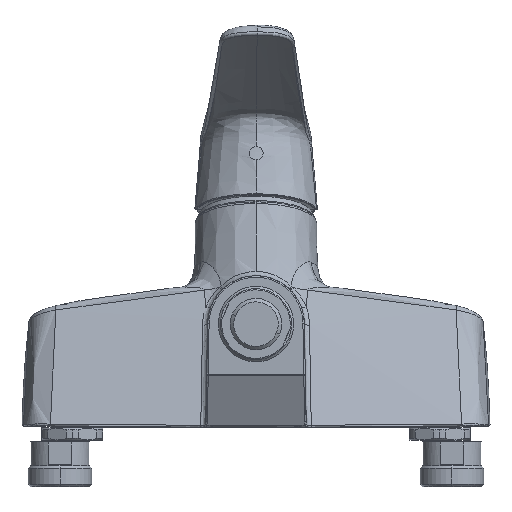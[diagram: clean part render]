
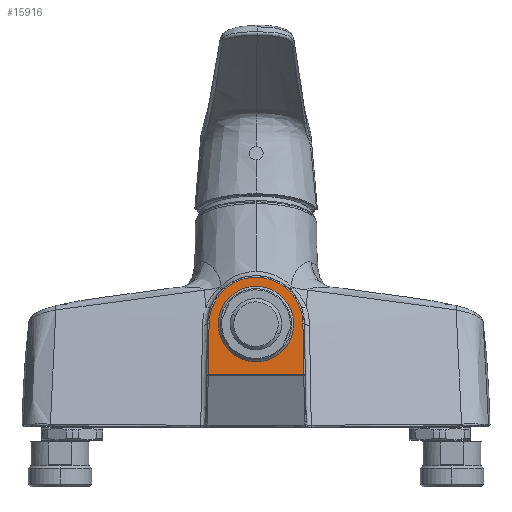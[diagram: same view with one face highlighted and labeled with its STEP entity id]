
A CAD part, front view. The second image highlights one B-rep face of the part: STEP entity #15916.
In plain terms, the highlighted planar face has unit normal (0, -1, 0).
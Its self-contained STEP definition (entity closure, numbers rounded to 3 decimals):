
#369 = EDGE_CURVE ( 'NONE', #5555, #22650, #10756, .T. ) ;
#605 = ORIENTED_EDGE ( 'NONE', *, *, #7487, .F. ) ;
#1111 = DIRECTION ( 'NONE',  ( -0.017, 0., -1. ) ) ;
#1583 = ORIENTED_EDGE ( 'NONE', *, *, #369, .T. ) ;
#1711 = VERTEX_POINT ( 'NONE', #26308 ) ;
#1851 = CARTESIAN_POINT ( 'NONE',  ( 615.462, 772.758, 1253.964 ) ) ;
#2289 = DIRECTION ( 'NONE',  ( 0., -1., 0. ) ) ;
#5232 = CARTESIAN_POINT ( 'NONE',  ( 615.827, 772.758, 1233.032 ) ) ;
#5485 = CARTESIAN_POINT ( 'NONE',  ( 615.827, 772.758, 1233.032 ) ) ;
#5555 = VERTEX_POINT ( 'NONE', #15493 ) ;
#6047 = VERTEX_POINT ( 'NONE', #24925 ) ;
#6669 = VERTEX_POINT ( 'NONE', #18106 ) ;
#7302 =( BOUNDED_CURVE ( )  B_SPLINE_CURVE ( 3, ( #24391, #13187, #26560, #13275 ),
 .UNSPECIFIED., .F., .F. ) 
 B_SPLINE_CURVE_WITH_KNOTS ( ( 4, 4 ),
 ( 0., 1. ),
 .UNSPECIFIED. ) 
 CURVE ( )  GEOMETRIC_REPRESENTATION_ITEM ( )  RATIONAL_B_SPLINE_CURVE ( ( 1., 0.345, 0.345, 1. ) ) 
 REPRESENTATION_ITEM ( '' )  );
#7356 = CIRCLE ( 'NONE', #21927, 13.221 ) ;
#7487 = EDGE_CURVE ( 'NONE', #5555, #1711, #29113, .T. ) ;
#7773 = CARTESIAN_POINT ( 'NONE',  ( 576.802, 772.758, 1233.032 ) ) ;
#8442 = EDGE_LOOP ( 'NONE', ( #14776, #12553 ) ) ;
#9759 = DIRECTION ( 'NONE',  ( 0., -1., 0. ) ) ;
#10601 = AXIS2_PLACEMENT_3D ( 'NONE', #26928, #2289, #18181 ) ;
#10756 = LINE ( 'NONE', #5232, #10925 ) ;
#10925 = VECTOR ( 'NONE', #25394, 1000. ) ;
#12553 = ORIENTED_EDGE ( 'NONE', *, *, #18729, .F. ) ;
#13187 = CARTESIAN_POINT ( 'NONE',  ( 577.813, 772.758, 1290.961 ) ) ;
#13275 = CARTESIAN_POINT ( 'NONE',  ( 615.462, 772.758, 1253.964 ) ) ;
#13556 = DIRECTION ( 'NONE',  ( 0., -1., 0. ) ) ;
#14629 = EDGE_CURVE ( 'NONE', #6669, #1711, #20647, .T. ) ;
#14776 = ORIENTED_EDGE ( 'NONE', *, *, #25193, .F. ) ;
#15493 = CARTESIAN_POINT ( 'NONE',  ( 615.827, 772.758, 1233.032 ) ) ;
#15764 = EDGE_LOOP ( 'NONE', ( #1583, #27405, #15855, #605 ) ) ;
#15855 = ORIENTED_EDGE ( 'NONE', *, *, #14629, .T. ) ;
#15916 = ADVANCED_FACE ( 'NONE', ( #16654, #16561 ), #15921, .T. ) ;
#15921 = PLANE ( 'NONE',  #10601 ) ;
#16561 = FACE_OUTER_BOUND ( 'NONE', #15764, .T. ) ;
#16654 = FACE_BOUND ( 'NONE', #8442, .T. ) ;
#17587 = VERTEX_POINT ( 'NONE', #28568 ) ;
#18106 = CARTESIAN_POINT ( 'NONE',  ( 577.168, 772.758, 1253.964 ) ) ;
#18181 = DIRECTION ( 'NONE',  ( -1., 0., 0. ) ) ;
#18729 = EDGE_CURVE ( 'NONE', #17587, #6047, #20931, .T. ) ;
#19027 = CARTESIAN_POINT ( 'NONE',  ( 602.819, 772.758, 1233.032 ) ) ;
#20647 = LINE ( 'NONE', #23442, #28558 ) ;
#20931 = CIRCLE ( 'NONE', #23919, 13.221 ) ;
#21255 = CARTESIAN_POINT ( 'NONE',  ( 589.811, 772.758, 1233.032 ) ) ;
#21618 = EDGE_CURVE ( 'NONE', #6669, #22650, #7302, .T. ) ;
#21927 = AXIS2_PLACEMENT_3D ( 'NONE', #26838, #13556, #29044 ) ;
#22650 = VERTEX_POINT ( 'NONE', #1851 ) ;
#23185 = CARTESIAN_POINT ( 'NONE',  ( 596.315, 772.758, 1253.63 ) ) ;
#23442 = CARTESIAN_POINT ( 'NONE',  ( 577.168, 772.758, 1253.964 ) ) ;
#23919 = AXIS2_PLACEMENT_3D ( 'NONE', #23185, #9759, #25340 ) ;
#24391 = CARTESIAN_POINT ( 'NONE',  ( 577.168, 772.758, 1253.964 ) ) ;
#24925 = CARTESIAN_POINT ( 'NONE',  ( 606.71, 772.758, 1245.461 ) ) ;
#25193 = EDGE_CURVE ( 'NONE', #6047, #17587, #7356, .T. ) ;
#25340 = DIRECTION ( 'NONE',  ( 0., 0., -1. ) ) ;
#25394 = DIRECTION ( 'NONE',  ( -0.017, 0., 1. ) ) ;
#26308 = CARTESIAN_POINT ( 'NONE',  ( 576.802, 772.758, 1233.032 ) ) ;
#26560 = CARTESIAN_POINT ( 'NONE',  ( 614.816, 772.758, 1290.961 ) ) ;
#26838 = CARTESIAN_POINT ( 'NONE',  ( 596.315, 772.758, 1253.63 ) ) ;
#26928 = CARTESIAN_POINT ( 'NONE',  ( 596.315, 772.758, 1253.63 ) ) ;
#27405 = ORIENTED_EDGE ( 'NONE', *, *, #21618, .F. ) ;
#28558 = VECTOR ( 'NONE', #1111, 1000. ) ;
#28568 = CARTESIAN_POINT ( 'NONE',  ( 585.92, 772.758, 1261.798 ) ) ;
#29044 = DIRECTION ( 'NONE',  ( 0., 0., -1. ) ) ;
#29113 = B_SPLINE_CURVE_WITH_KNOTS ( 'NONE', 3,
 ( #5485, #19027, #21255, #7773 ),
 .UNSPECIFIED., .F., .F.,
 ( 4, 4 ),
 ( 0., 1. ),
 .UNSPECIFIED. ) ;
